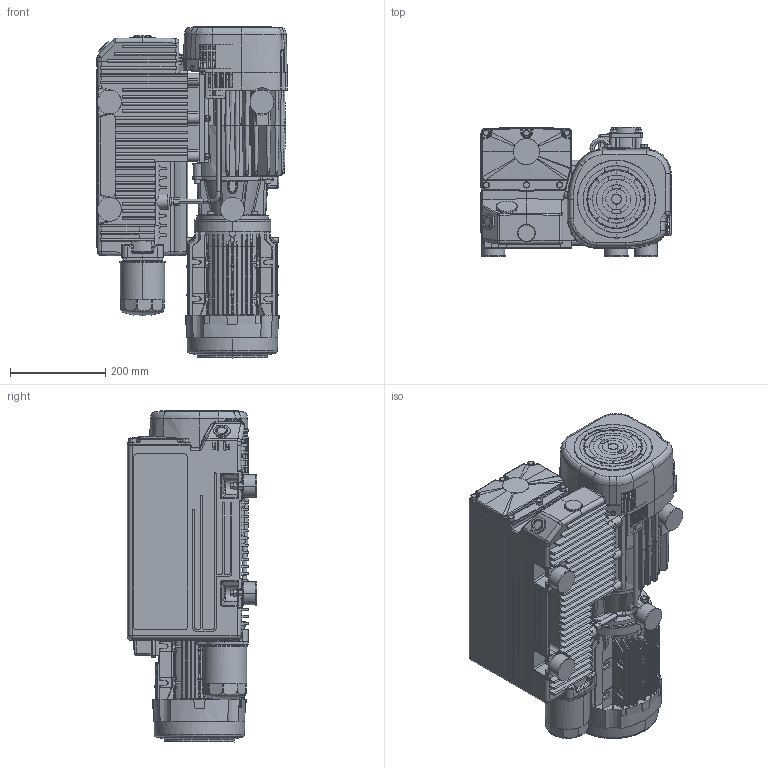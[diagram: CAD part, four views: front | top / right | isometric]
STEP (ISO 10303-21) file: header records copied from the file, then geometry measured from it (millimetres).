
FILE_DESCRIPTION((''),'2;1');
FILE_NAME('960557_A1','2012-10-10T',('L2200144'),('Copyright by Leybold GmbH'),'PRO/ENGINEER BY PARAMETRIC TECHNOLOGY CORPORATION, 2010430','PRO/ENGINEER BY PARAMETRIC TECHNOLOGY CORPORATION, 2010430','');
FILE_SCHEMA(('AUTOMOTIVE_DESIGN { 1 0 10303 214 1 1 1 1 }'));
Products named in the file (1): 960557_A1
Bounding box: 399.57 x 271 x 696.48 mm (x, y, z)
Surface area: 2525605.9 mm2 (no closed solid volume)
Topology: 0 solids, 237 shells, 3519 faces, 10651 edges, 7164 vertices
Faces by surface type: plane 1718, cylinder 1033, bspline 336, cone 253, torus 122, sphere 26, extrusion 16, revolution 15
Entity records: 162838 total; most frequent: CARTESIAN_POINT 55914, ORIENTED_EDGE 18955, DIRECTION 17525, EDGE_CURVE 10640, VERTEX_POINT 7164, AXIS2_PLACEMENT_3D 5965, VECTOR 5580, LINE 5564
